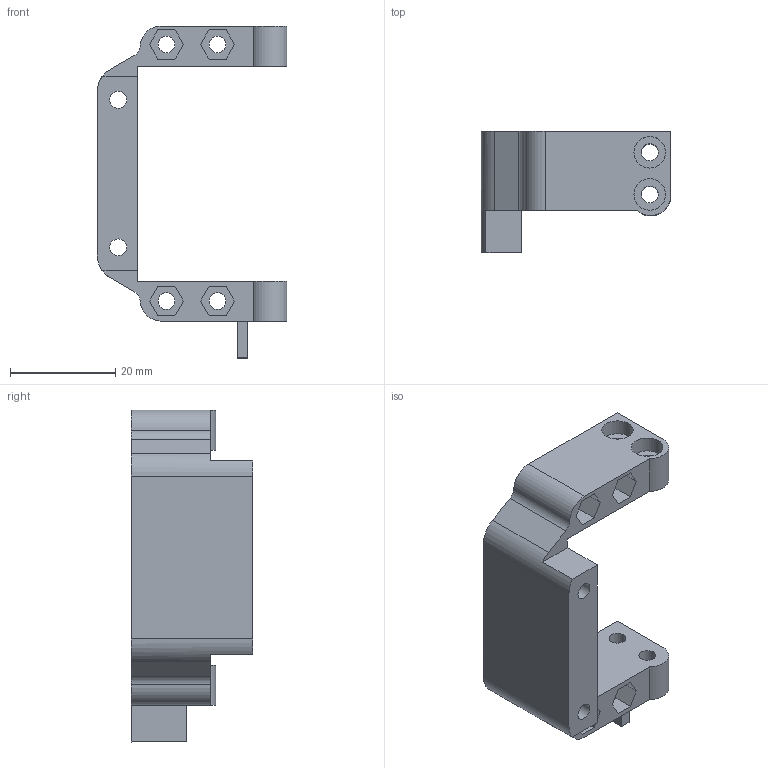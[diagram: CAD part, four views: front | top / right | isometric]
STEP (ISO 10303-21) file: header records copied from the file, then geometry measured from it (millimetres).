
FILE_DESCRIPTION(/* description */ (''),/* implementation_level */ '2;1');
FILE_NAME(/* name */ '4-31-1 Servo frame one.step',/* time_stamp */ '2025-05-10T22:19:46+02:00',/* author */ (''),/* organization */ (''),/* preprocessor_version */ 'ST-DEVELOPER v20.1',/* originating_system */ 'Autodesk Translation Framework v14.4.0.0',/* authorisation */ '');
FILE_SCHEMA (('AUTOMOTIVE_DESIGN { 1 0 10303 214 3 1 1 }'));
Length unit declared in the file: millimetre
Products named in the file (1): 4-31-1 Servo frame one
Bounding box: 36 x 23 x 63 mm (x, y, z)
Volume: 11198.9 mm3; surface area: 7442.1 mm2
Topology: 1 solids, 1 shells, 78 faces, 202 edges, 134 vertices
Faces by surface type: plane 52, cylinder 24, cone 2
Full cylindrical faces by diameter (mm): 3.2 x10, 6 x6
Entity records: 2462 total; most frequent: CARTESIAN_POINT 415, DIRECTION 412, ORIENTED_EDGE 404, EDGE_CURVE 202, LINE 150, VECTOR 150, VERTEX_POINT 134, AXIS2_PLACEMENT_3D 131
